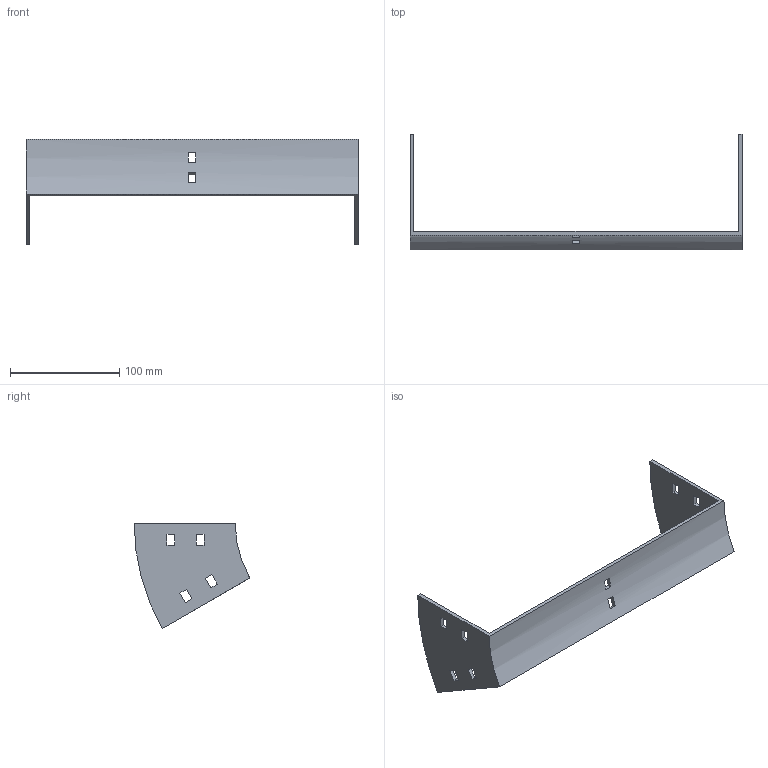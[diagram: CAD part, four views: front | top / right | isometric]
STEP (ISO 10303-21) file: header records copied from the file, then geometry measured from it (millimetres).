
FILE_DESCRIPTION (( 'STEP AP214' ), '1' );
FILE_NAME ('35B1I300.step', '2025-02-21T09:27:01', ( '' ), ( '' ), 'SwSTEP 2.0', 'SolidWorks 2023', '' );
FILE_SCHEMA (( 'AUTOMOTIVE_DESIGN' ));
Length unit declared in the file: millimetre
Products named in the file (1): 35B1I300
Bounding box: 304 x 105.9 x 96.25 mm (x, y, z)
Volume: 102588.6 mm3; surface area: 63867.3 mm2
Topology: 1 solids, 1 shells, 50 faces, 144 edges, 96 vertices
Faces by surface type: plane 46, cylinder 4
Entity records: 1687 total; most frequent: CARTESIAN_POINT 291, ORIENTED_EDGE 288, DIRECTION 262, EDGE_CURVE 144, LINE 128, VECTOR 128, VERTEX_POINT 96, EDGE_LOOP 70
